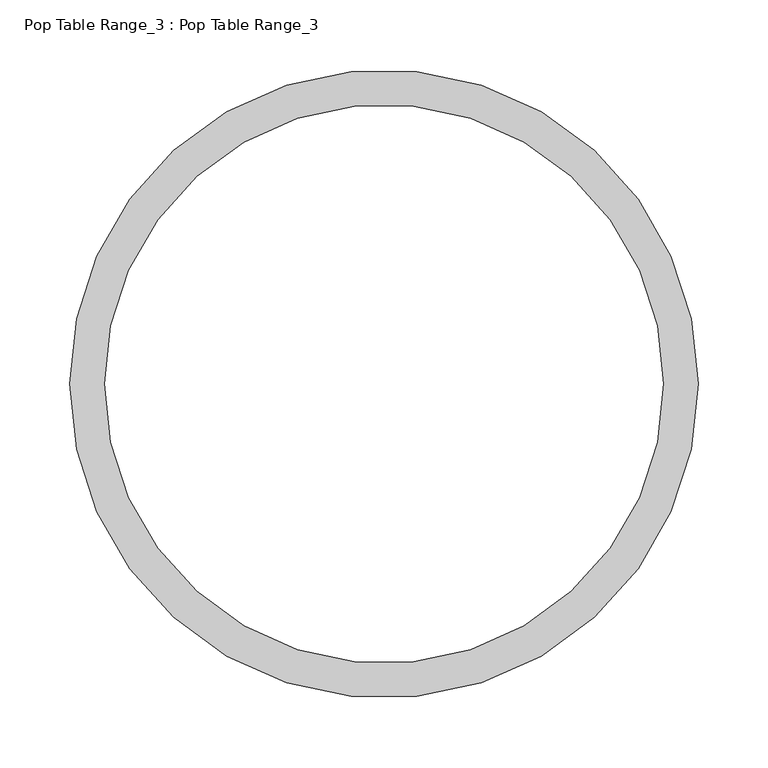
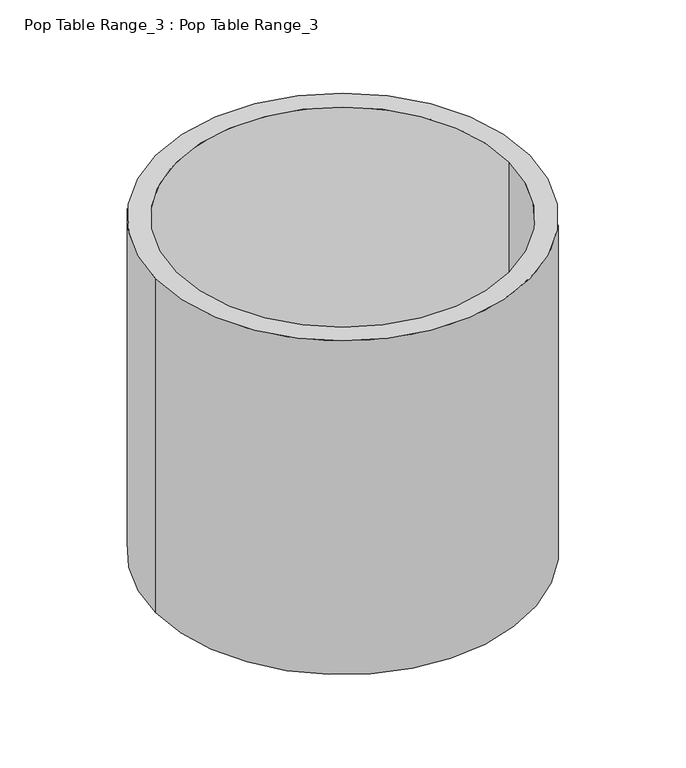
"""IFC4 building model written with IfcOpenShell, lengths in millimetres: proxy geometry, Pop Table Range_3 : Pop Table Range_3."""

import ifcopenshell
import ifcopenshell.guid

model = None  # the IFC model being written
_history = None  # IfcOwnerHistory: only IFC2X3 demands one
_inside = {}  # id of a spatial element -> (the spatial element, [elements in it])
_under = {}  # id of a project, library or spatial element -> (it, [spatial elements below it])
_declared = {}  # id of a project -> (the project, [libraries it declares])
_typed = {}  # id of a type object -> (the type object, [elements of that type])
_made_of = {}  # id of a material, layer set ... -> (it, [elements and type objects made of it])


def new_model(schema):
    """Start an empty IFC model of exactly this schema.

    Asked for "IFC4X3", IfcOpenShell would pick the latest addendum, in which some entities
    have other attributes; the version numbers below select the first issue.
    IFC2X3 requires an IfcOwnerHistory on every rooted entity: one is made here for all.
    """
    global model, _history
    if schema == "IFC4X3":
        model = ifcopenshell.file(schema_version=(4, 3, 0, 0))
    else:
        model = ifcopenshell.file(schema=schema)
    _inside.clear()
    _under.clear()
    _declared.clear()
    _typed.clear()
    _made_of.clear()
    _history = None
    if model.schema == "IFC2X3":
        org = make("IfcOrganization", Name="unknown")
        user = make(
            "IfcPersonAndOrganization",
            ThePerson=make("IfcPerson", FamilyName="unknown"),
            TheOrganization=org,
        )
        app = make(
            "IfcApplication",
            ApplicationDeveloper=org,
            Version="unknown",
            ApplicationFullName="unknown",
            ApplicationIdentifier="unknown",
        )
        _history = make(
            "IfcOwnerHistory",
            OwningUser=user,
            OwningApplication=app,
            ChangeAction="ADDED",
            CreationDate=0,
        )
    return model


def make(cls, **values):
    """One entity of the class cls with the attributes given. An attribute that is None is left unset."""
    return model.create_entity(
        cls, **{name: value for name, value in values.items() if value is not None}
    )


def rooted(cls, **values):
    """An entity with a GlobalId (a new one), such as an element, a storey or a relation."""
    return make(cls, GlobalId=ifcopenshell.guid.new(), OwnerHistory=_history, **values)


def si_unit(unit_type, name, prefix=None):
    """IfcSIUnit, for example si_unit("LENGTHUNIT", "METRE", prefix="MILLI")."""
    return make("IfcSIUnit", UnitType=unit_type, Prefix=prefix, Name=name)


def assignment(units):
    """IfcUnitAssignment: the units of a project."""
    return None if units is None else make("IfcUnitAssignment", Units=units)


def point(xyz):
    """IfcCartesianPoint."""
    return None if xyz is None else make("IfcCartesianPoint", Coordinates=xyz)


def direction(xyz):
    """IfcDirection."""
    return None if xyz is None else make("IfcDirection", DirectionRatios=xyz)


def frame(location, z_axis=None, x_axis=None):
    """IfcAxis2Placement3D, a coordinate frame: its origin and axes. An axis left out is left unset."""
    return make(
        "IfcAxis2Placement3D",
        Location=point(location),
        Axis=direction(z_axis),
        RefDirection=direction(x_axis),
    )


def frame_2d(location, x_axis=None):
    """IfcAxis2Placement2D, a coordinate frame in the plane: its origin and x axis."""
    return make(
        "IfcAxis2Placement2D", Location=point(location), RefDirection=direction(x_axis)
    )


def origin():
    """The frame at (0, 0, 0) with its axes left unset."""
    return frame((0.0, 0.0, 0.0))


def origin_with_axes():
    """The frame at (0, 0, 0) with the z axis (0, 0, 1) and the x axis (1, 0, 0) written out."""
    return frame((0.0, 0.0, 0.0), z_axis=(0.0, 0.0, 1.0), x_axis=(1.0, 0.0, 0.0))


def origin_2d():
    """The frame at (0, 0) in the plane with its x axis left unset."""
    return frame_2d((0.0, 0.0))


def place(relative_to, where):
    """IfcLocalPlacement: puts the frame where relative to a parent placement (None: the world)."""
    return make(
        "IfcLocalPlacement", PlacementRelTo=relative_to, RelativePlacement=where
    )


def context(
    kind, dimensions, precision=None, world=None, true_north=None, identifier=None
):
    """IfcGeometricRepresentationContext, for example the 3D "Model" context."""
    return make(
        "IfcGeometricRepresentationContext",
        ContextIdentifier=identifier,
        ContextType=kind,
        CoordinateSpaceDimension=dimensions,
        Precision=precision,
        WorldCoordinateSystem=world,
        TrueNorth=true_north,
    )


def project(units=None, contexts=None):
    """IfcProject with its units and contexts."""
    return rooted(
        "IfcProject",
        Name="project",
        RepresentationContexts=contexts,
        UnitsInContext=assignment(units),
    )


def spatial(cls, under=None, at=None, **own):
    """A site, building, storey or space (cls), placed at a placement, below another one or the project."""
    s = rooted(cls, ObjectPlacement=at, **own)
    if under is not None:
        _under.setdefault(under.id(), (under, []))[1].append(s)
    return s


def circle_curve(where, radius):
    """IfcCircle in the frame where."""
    return make("IfcCircle", Position=where, Radius=radius)


def trimmed(basis, trim1, trim2, sense, master):
    """IfcTrimmedCurve: the piece of a basis curve between two trims."""
    return make(
        "IfcTrimmedCurve",
        BasisCurve=basis,
        Trim1=trim1,
        Trim2=trim2,
        SenseAgreement=sense,
        MasterRepresentation=master,
    )


def segment(curve, same_sense, transition):
    """IfcCompositeCurveSegment."""
    return make(
        "IfcCompositeCurveSegment",
        Transition=transition,
        SameSense=same_sense,
        ParentCurve=curve,
    )


def composite_curve(segments, self_intersect=None):
    """IfcCompositeCurve: segments joined end to end."""
    return make("IfcCompositeCurve", Segments=segments, SelfIntersect=self_intersect)


def outline(outer, holes=None, kind="AREA"):
    """IfcArbitraryClosedProfileDef: a profile drawn as a closed curve; with holes, ...WithVoids."""
    if holes is None:
        return make("IfcArbitraryClosedProfileDef", ProfileType=kind, OuterCurve=outer)
    return make(
        "IfcArbitraryProfileDefWithVoids",
        ProfileType=kind,
        OuterCurve=outer,
        InnerCurves=holes,
    )


def extrude(swept, where, along, depth):
    """IfcExtrudedAreaSolid: the profile swept, set in the frame where, extruded along a direction by depth."""
    return make(
        "IfcExtrudedAreaSolid",
        SweptArea=swept,
        Position=where,
        ExtrudedDirection=direction(along),
        Depth=depth,
    )


def shape(context_of_items, identifier, shape_type, items):
    """IfcShapeRepresentation: the items that make up one representation, for example the "Body"."""
    return make(
        "IfcShapeRepresentation",
        ContextOfItems=context_of_items,
        RepresentationIdentifier=identifier,
        RepresentationType=shape_type,
        Items=items,
    )


def source(mapping_origin, context_of_items, identifier, shape_type, items):
    """IfcRepresentationMap: a shape defined once, which mapped items show again and again."""
    return make(
        "IfcRepresentationMap",
        MappingOrigin=mapping_origin,
        MappedRepresentation=shape(context_of_items, identifier, shape_type, items),
    )


def transform(
    local_origin,
    x_axis=None,
    y_axis=None,
    z_axis=None,
    scale=None,
    scale2=None,
    scale3=None,
    uniform=True,
):
    """IfcCartesianTransformationOperator3D, or its non-uniform kind. x_axis, y_axis, z_axis: its Axis1, 2, 3."""
    if uniform:
        return make(
            "IfcCartesianTransformationOperator3D",
            Axis1=direction(x_axis),
            Axis2=direction(y_axis),
            LocalOrigin=point(local_origin),
            Scale=scale,
            Axis3=direction(z_axis),
        )
    return make(
        "IfcCartesianTransformationOperator3DnonUniform",
        Axis1=direction(x_axis),
        Axis2=direction(y_axis),
        LocalOrigin=point(local_origin),
        Scale=scale,
        Axis3=direction(z_axis),
        Scale2=scale2,
        Scale3=scale3,
    )


def mapped(mapping_source, mapping_target):
    """IfcMappedItem: shows the shape of a source again, moved by a transform."""
    return make(
        "IfcMappedItem", MappingSource=mapping_source, MappingTarget=mapping_target
    )


def made_of(thing, what):
    """Note that an element or type object is made of a material, layer set ...; save() writes the relation."""
    if what is not None:
        _made_of.setdefault(what.id(), (what, []))[1].append(thing)
    return thing


def element(
    cls,
    number,
    at=None,
    inside=None,
    cuts=None,
    type_object=None,
    material=None,
    context=None,
    identifier="Body",
    shape_type=None,
    held_by="IfcProductDefinitionShape",
    body=None,
    shapes=None,
    **own,
):
    """One element of the class cls, such as IfcWall. Its Tag is "e" and its number.

    at: its placement. inside: the storey or other place that contains it. cuts: it is an
    opening in that element (IfcRelVoidsElement). A single representation is given by context,
    identifier, shape_type and body (its items); several are given by shapes. held_by: the class
    of the entity that holds the representations. save() writes the other relations.
    """
    e = rooted(cls, Tag="e%d" % number, ObjectPlacement=at, **own)
    if body is not None:
        shapes = [shape(context, identifier, shape_type, body)]
    if shapes is not None:
        e.Representation = make(held_by, Representations=shapes)
    if inside is not None:
        _inside.setdefault(inside.id(), (inside, []))[1].append(e)
    if cuts is not None:
        rooted(
            "IfcRelVoidsElement", RelatingBuildingElement=cuts, RelatedOpeningElement=e
        )
    if type_object is not None:
        _typed.setdefault(type_object.id(), (type_object, []))[1].append(e)
    return made_of(e, material)


def aggregate(whole, parts):
    """IfcRelAggregates: a whole, such as a stair, and the parts it consists of."""
    return rooted("IfcRelAggregates", RelatingObject=whole, RelatedObjects=parts)


def save(model, path):
    """Write the relations noted so far, then the file.

    IfcRelAggregates (storeys below a building ...), IfcRelContainedInSpatialStructure (elements
    in a storey), IfcRelDefinesByType, IfcRelAssociatesMaterial and IfcRelDeclares: one each for
    every whole, place, type object, material and project.
    """
    for whole, parts in _under.values():
        aggregate(whole, parts)
    for where, things in _inside.values():
        rooted(
            "IfcRelContainedInSpatialStructure",
            RelatedElements=things,
            RelatingStructure=where,
        )
    for kind, things in _typed.values():
        rooted("IfcRelDefinesByType", RelatedObjects=things, RelatingType=kind)
    for what, things in _made_of.values():
        rooted("IfcRelAssociatesMaterial", RelatedObjects=things, RelatingMaterial=what)
    for by, libraries in _declared.values():
        rooted("IfcRelDeclares", RelatingContext=by, RelatedDefinitions=libraries)
    model.write(path)


def pop_table_range_3_pop_table_range_3_c5ca1f73(model_context):
    return source(origin(), model_context, "Body", "SweptSolid", [
        extrude(outline(composite_curve([segment(trimmed(circle_curve(origin_2d(), 225.0), [point((-225.0, 0.0))], [point((225.0, 0.0))], False, "CARTESIAN"), True, "CONTINUOUS"), segment(trimmed(circle_curve(origin_2d(), 225.0), [point((225.0, 0.0))], [point((-225.0, 0.0))], False, "CARTESIAN"), True, "CONTINUOUS")], self_intersect=False), holes=[composite_curve([segment(trimmed(circle_curve(origin_2d(), 200.0), [point((-200.0, 0.0))], [point((200.0, 0.0))], True, "CARTESIAN"), True, "CONTINUOUS"), segment(trimmed(circle_curve(origin_2d(), 200.0), [point((200.0, 0.0))], [point((-200.0, 0.0))], True, "CARTESIAN"), True, "CONTINUOUS")], self_intersect=False)]), origin_with_axes(), (0.0, 0.0, 1.0), 425.0),
    ])


if __name__ == "__main__":
    model = new_model("IFC4")
    model_context = context("Model", 3, world=origin())
    ifc_project = project(units=[si_unit("LENGTHUNIT", "METRE", prefix="MILLI")], contexts=[model_context])
    site = spatial("IfcSite", under=ifc_project)
    building = spatial("IfcBuilding", under=site)
    placement = place(None, origin())
    pop_table_range_3_pop_table_range_3_shape = pop_table_range_3_pop_table_range_3_c5ca1f73(model_context)
    element("IfcBuildingElementProxy", 1, Name="Pop Table Range_3 : Pop Table Range_3", ObjectType="Pop Table Range_3 : Pop Table Range_3", at=placement, inside=building, context=model_context, shape_type="MappedRepresentation", body=[
        mapped(pop_table_range_3_pop_table_range_3_shape, transform((0.0, 0.0, 0.0), x_axis=(1.0, 0.0, 0.0), y_axis=(0.0, 1.0, 0.0), z_axis=(0.0, 0.0, 1.0))),
    ])
    save(model, "model.ifc")
